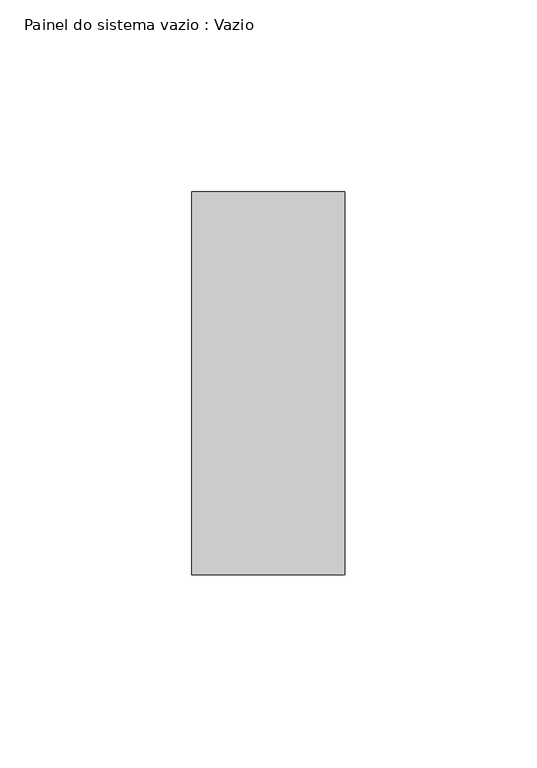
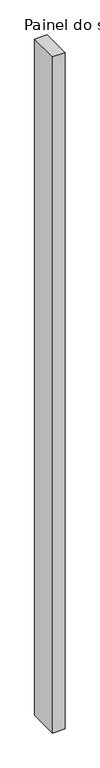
"""IFC4 building model written with IfcOpenShell, lengths in millimetres: plate geometry, Painel do sistema vazio : Vazio."""

import ifcopenshell
import ifcopenshell.guid

model = None  # the IFC model being written
_history = None  # IfcOwnerHistory: only IFC2X3 demands one
_inside = {}  # id of a spatial element -> (the spatial element, [elements in it])
_under = {}  # id of a project, library or spatial element -> (it, [spatial elements below it])
_declared = {}  # id of a project -> (the project, [libraries it declares])
_typed = {}  # id of a type object -> (the type object, [elements of that type])
_made_of = {}  # id of a material, layer set ... -> (it, [elements and type objects made of it])


def new_model(schema):
    """Start an empty IFC model of exactly this schema.

    Asked for "IFC4X3", IfcOpenShell would pick the latest addendum, in which some entities
    have other attributes; the version numbers below select the first issue.
    IFC2X3 requires an IfcOwnerHistory on every rooted entity: one is made here for all.
    """
    global model, _history
    if schema == "IFC4X3":
        model = ifcopenshell.file(schema_version=(4, 3, 0, 0))
    else:
        model = ifcopenshell.file(schema=schema)
    _inside.clear()
    _under.clear()
    _declared.clear()
    _typed.clear()
    _made_of.clear()
    _history = None
    if model.schema == "IFC2X3":
        org = make("IfcOrganization", Name="unknown")
        user = make(
            "IfcPersonAndOrganization",
            ThePerson=make("IfcPerson", FamilyName="unknown"),
            TheOrganization=org,
        )
        app = make(
            "IfcApplication",
            ApplicationDeveloper=org,
            Version="unknown",
            ApplicationFullName="unknown",
            ApplicationIdentifier="unknown",
        )
        _history = make(
            "IfcOwnerHistory",
            OwningUser=user,
            OwningApplication=app,
            ChangeAction="ADDED",
            CreationDate=0,
        )
    return model


def make(cls, **values):
    """One entity of the class cls with the attributes given. An attribute that is None is left unset."""
    return model.create_entity(
        cls, **{name: value for name, value in values.items() if value is not None}
    )


def rooted(cls, **values):
    """An entity with a GlobalId (a new one), such as an element, a storey or a relation."""
    return make(cls, GlobalId=ifcopenshell.guid.new(), OwnerHistory=_history, **values)


def si_unit(unit_type, name, prefix=None):
    """IfcSIUnit, for example si_unit("LENGTHUNIT", "METRE", prefix="MILLI")."""
    return make("IfcSIUnit", UnitType=unit_type, Prefix=prefix, Name=name)


def assignment(units):
    """IfcUnitAssignment: the units of a project."""
    return None if units is None else make("IfcUnitAssignment", Units=units)


def point(xyz):
    """IfcCartesianPoint."""
    return None if xyz is None else make("IfcCartesianPoint", Coordinates=xyz)


def direction(xyz):
    """IfcDirection."""
    return None if xyz is None else make("IfcDirection", DirectionRatios=xyz)


def frame(location, z_axis=None, x_axis=None):
    """IfcAxis2Placement3D, a coordinate frame: its origin and axes. An axis left out is left unset."""
    return make(
        "IfcAxis2Placement3D",
        Location=point(location),
        Axis=direction(z_axis),
        RefDirection=direction(x_axis),
    )


def origin():
    """The frame at (0, 0, 0) with its axes left unset."""
    return frame((0.0, 0.0, 0.0))


def origin_with_axes():
    """The frame at (0, 0, 0) with the z axis (0, 0, 1) and the x axis (1, 0, 0) written out."""
    return frame((0.0, 0.0, 0.0), z_axis=(0.0, 0.0, 1.0), x_axis=(1.0, 0.0, 0.0))


def place(relative_to, where):
    """IfcLocalPlacement: puts the frame where relative to a parent placement (None: the world)."""
    return make(
        "IfcLocalPlacement", PlacementRelTo=relative_to, RelativePlacement=where
    )


def context(
    kind, dimensions, precision=None, world=None, true_north=None, identifier=None
):
    """IfcGeometricRepresentationContext, for example the 3D "Model" context."""
    return make(
        "IfcGeometricRepresentationContext",
        ContextIdentifier=identifier,
        ContextType=kind,
        CoordinateSpaceDimension=dimensions,
        Precision=precision,
        WorldCoordinateSystem=world,
        TrueNorth=true_north,
    )


def project(units=None, contexts=None):
    """IfcProject with its units and contexts."""
    return rooted(
        "IfcProject",
        Name="project",
        RepresentationContexts=contexts,
        UnitsInContext=assignment(units),
    )


def spatial(cls, under=None, at=None, **own):
    """A site, building, storey or space (cls), placed at a placement, below another one or the project."""
    s = rooted(cls, ObjectPlacement=at, **own)
    if under is not None:
        _under.setdefault(under.id(), (under, []))[1].append(s)
    return s


def polyline(points):
    """IfcPolyline through the points."""
    return make("IfcPolyline", Points=[point(p) for p in points])


def outline(outer, holes=None, kind="AREA"):
    """IfcArbitraryClosedProfileDef: a profile drawn as a closed curve; with holes, ...WithVoids."""
    if holes is None:
        return make("IfcArbitraryClosedProfileDef", ProfileType=kind, OuterCurve=outer)
    return make(
        "IfcArbitraryProfileDefWithVoids",
        ProfileType=kind,
        OuterCurve=outer,
        InnerCurves=holes,
    )


def extrude(swept, where, along, depth):
    """IfcExtrudedAreaSolid: the profile swept, set in the frame where, extruded along a direction by depth."""
    return make(
        "IfcExtrudedAreaSolid",
        SweptArea=swept,
        Position=where,
        ExtrudedDirection=direction(along),
        Depth=depth,
    )


def shape(context_of_items, identifier, shape_type, items):
    """IfcShapeRepresentation: the items that make up one representation, for example the "Body"."""
    return make(
        "IfcShapeRepresentation",
        ContextOfItems=context_of_items,
        RepresentationIdentifier=identifier,
        RepresentationType=shape_type,
        Items=items,
    )


def source(mapping_origin, context_of_items, identifier, shape_type, items):
    """IfcRepresentationMap: a shape defined once, which mapped items show again and again."""
    return make(
        "IfcRepresentationMap",
        MappingOrigin=mapping_origin,
        MappedRepresentation=shape(context_of_items, identifier, shape_type, items),
    )


def transform(
    local_origin,
    x_axis=None,
    y_axis=None,
    z_axis=None,
    scale=None,
    scale2=None,
    scale3=None,
    uniform=True,
):
    """IfcCartesianTransformationOperator3D, or its non-uniform kind. x_axis, y_axis, z_axis: its Axis1, 2, 3."""
    if uniform:
        return make(
            "IfcCartesianTransformationOperator3D",
            Axis1=direction(x_axis),
            Axis2=direction(y_axis),
            LocalOrigin=point(local_origin),
            Scale=scale,
            Axis3=direction(z_axis),
        )
    return make(
        "IfcCartesianTransformationOperator3DnonUniform",
        Axis1=direction(x_axis),
        Axis2=direction(y_axis),
        LocalOrigin=point(local_origin),
        Scale=scale,
        Axis3=direction(z_axis),
        Scale2=scale2,
        Scale3=scale3,
    )


def mapped(mapping_source, mapping_target):
    """IfcMappedItem: shows the shape of a source again, moved by a transform."""
    return make(
        "IfcMappedItem", MappingSource=mapping_source, MappingTarget=mapping_target
    )


def made_of(thing, what):
    """Note that an element or type object is made of a material, layer set ...; save() writes the relation."""
    if what is not None:
        _made_of.setdefault(what.id(), (what, []))[1].append(thing)
    return thing


def element(
    cls,
    number,
    at=None,
    inside=None,
    cuts=None,
    type_object=None,
    material=None,
    context=None,
    identifier="Body",
    shape_type=None,
    held_by="IfcProductDefinitionShape",
    body=None,
    shapes=None,
    **own,
):
    """One element of the class cls, such as IfcWall. Its Tag is "e" and its number.

    at: its placement. inside: the storey or other place that contains it. cuts: it is an
    opening in that element (IfcRelVoidsElement). A single representation is given by context,
    identifier, shape_type and body (its items); several are given by shapes. held_by: the class
    of the entity that holds the representations. save() writes the other relations.
    """
    e = rooted(cls, Tag="e%d" % number, ObjectPlacement=at, **own)
    if body is not None:
        shapes = [shape(context, identifier, shape_type, body)]
    if shapes is not None:
        e.Representation = make(held_by, Representations=shapes)
    if inside is not None:
        _inside.setdefault(inside.id(), (inside, []))[1].append(e)
    if cuts is not None:
        rooted(
            "IfcRelVoidsElement", RelatingBuildingElement=cuts, RelatedOpeningElement=e
        )
    if type_object is not None:
        _typed.setdefault(type_object.id(), (type_object, []))[1].append(e)
    return made_of(e, material)


def aggregate(whole, parts):
    """IfcRelAggregates: a whole, such as a stair, and the parts it consists of."""
    return rooted("IfcRelAggregates", RelatingObject=whole, RelatedObjects=parts)


def save(model, path):
    """Write the relations noted so far, then the file.

    IfcRelAggregates (storeys below a building ...), IfcRelContainedInSpatialStructure (elements
    in a storey), IfcRelDefinesByType, IfcRelAssociatesMaterial and IfcRelDeclares: one each for
    every whole, place, type object, material and project.
    """
    for whole, parts in _under.values():
        aggregate(whole, parts)
    for where, things in _inside.values():
        rooted(
            "IfcRelContainedInSpatialStructure",
            RelatedElements=things,
            RelatingStructure=where,
        )
    for kind, things in _typed.values():
        rooted("IfcRelDefinesByType", RelatedObjects=things, RelatingType=kind)
    for what, things in _made_of.values():
        rooted("IfcRelAssociatesMaterial", RelatedObjects=things, RelatingMaterial=what)
    for by, libraries in _declared.values():
        rooted("IfcRelDeclares", RelatingContext=by, RelatedDefinitions=libraries)
    model.write(path)


def painel_do_sistema_vazio_vazio_009b6e73(model_context):
    return source(origin(), model_context, "Body", "SweptSolid", [
        extrude(outline(polyline([(20.0000002, -50.0), (-20.0000002, -50.0), (-20.0000002, 50.0), (20.0000002, 50.0), (20.0000002, -50.0)])), origin_with_axes(), (0.0, 0.0, 1.0), 2300.0),
    ])


if __name__ == "__main__":
    model = new_model("IFC4")
    model_context = context("Model", 3, world=origin())
    ifc_project = project(units=[si_unit("LENGTHUNIT", "METRE", prefix="MILLI")], contexts=[model_context])
    site = spatial("IfcSite", under=ifc_project)
    building = spatial("IfcBuilding", under=site)
    placement = place(None, origin())
    painel_do_sistema_vazio_vazio_shape = painel_do_sistema_vazio_vazio_009b6e73(model_context)
    element("IfcPlate", 1, ObjectType="Painel do sistema vazio : Vazio", at=placement, inside=building, context=model_context, shape_type="MappedRepresentation", body=[
        mapped(painel_do_sistema_vazio_vazio_shape, transform((0.0, 0.0, 0.0), x_axis=(1.0, 0.0, 0.0), y_axis=(0.0, 1.0, 0.0), z_axis=(0.0, 0.0, 1.0))),
    ])
    save(model, "model.ifc")
